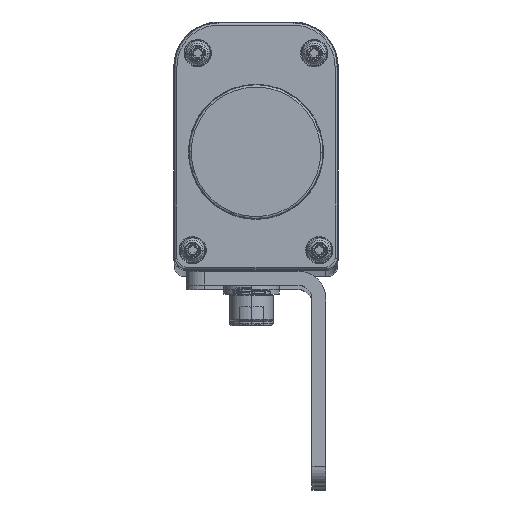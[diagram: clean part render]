
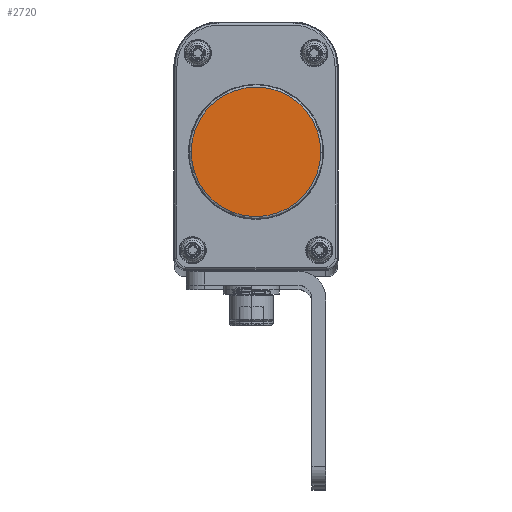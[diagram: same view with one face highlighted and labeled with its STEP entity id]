
A CAD part, top view. The second image highlights one B-rep face of the part: STEP entity #2720.
In plain terms, the highlighted planar face has unit normal (0, 0, 1) as drawn and (0, 1, 0) by its records, which use the part's own axes.
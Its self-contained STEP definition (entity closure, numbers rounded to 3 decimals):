
#1677=CARTESIAN_POINT('',(0.,17.,1.25));
#1678=DIRECTION('',(0.,1.,0.));
#1679=DIRECTION('',(-1.,0.,-0.007));
#1680=AXIS2_PLACEMENT_3D('',#1677,#1678,#1679);
#1682=CARTESIAN_POINT('',(0.,17.,1.25));
#1683=DIRECTION('',(0.,1.,0.));
#1684=DIRECTION('',(1.,0.,0.));
#1685=AXIS2_PLACEMENT_3D('',#1682,#1683,#1684);
#1687=CARTESIAN_POINT('',(0.,17.,1.25));
#1688=DIRECTION('',(0.,1.,0.));
#1689=DIRECTION('',(1.,0.,0.007));
#1690=AXIS2_PLACEMENT_3D('',#1687,#1688,#1689);
#1692=CARTESIAN_POINT('',(0.,17.,1.25));
#1693=DIRECTION('',(0.,1.,0.));
#1694=DIRECTION('',(-1.,0.,0.));
#1695=AXIS2_PLACEMENT_3D('',#1692,#1693,#1694);
#1727=CARTESIAN_POINT('',(13.904,17.,1.348));
#1728=CARTESIAN_POINT('',(13.904,17.,1.25));
#1729=VERTEX_POINT('',#1727);
#1730=VERTEX_POINT('',#1728);
#1747=CARTESIAN_POINT('',(-13.904,17.,1.152));
#1748=CARTESIAN_POINT('',(-13.904,17.,1.25));
#1749=VERTEX_POINT('',#1747);
#1750=VERTEX_POINT('',#1748);
#2709=CARTESIAN_POINT('',(0.,17.,0.));
#2710=DIRECTION('',(0.,1.,0.));
#2711=DIRECTION('',(0.,0.,1.));
#2712=AXIS2_PLACEMENT_3D('',#2709,#2710,#2711);
#2713=PLANE('',#2712);
#2714=ORIENTED_EDGE('',*,*,#2697,.F.);
#2715=ORIENTED_EDGE('',*,*,#2687,.F.);
#2716=ORIENTED_EDGE('',*,*,#2685,.F.);
#2717=ORIENTED_EDGE('',*,*,#2699,.F.);
#2718=EDGE_LOOP('',(#2714,#2715,#2716,#2717));
#2719=FACE_OUTER_BOUND('',#2718,.F.);
#2720=ADVANCED_FACE('',(#2719),#2713,.T.);
#1681=CIRCLE('',#1680,13.904);
#1686=CIRCLE('',#1685,13.904);
#1691=CIRCLE('',#1690,13.904);
#1696=CIRCLE('',#1695,13.904);
#2685=EDGE_CURVE('',#1729,#1730,#1691,.T.);
#2687=EDGE_CURVE('',#1730,#1749,#1686,.T.);
#2697=EDGE_CURVE('',#1749,#1750,#1681,.T.);
#2699=EDGE_CURVE('',#1750,#1729,#1696,.T.);
